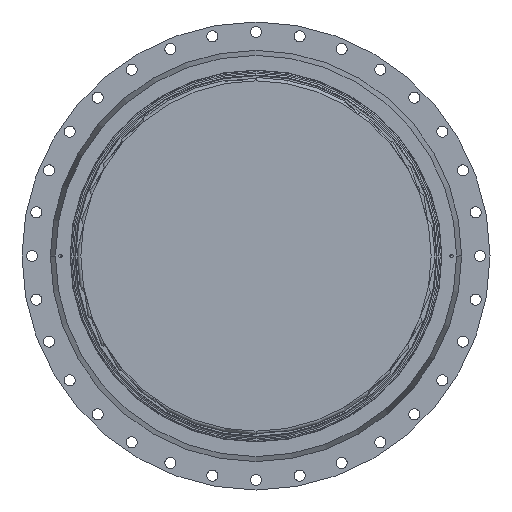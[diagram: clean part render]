
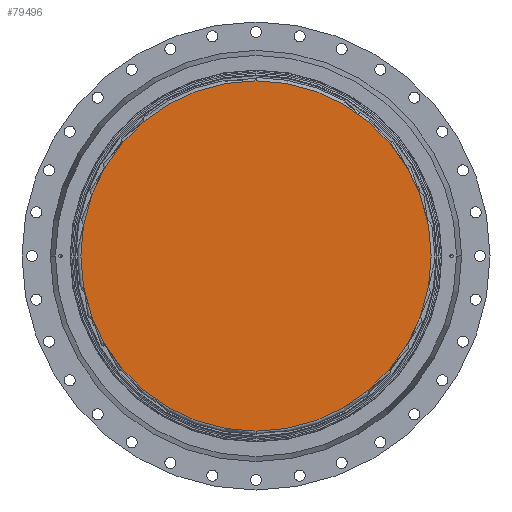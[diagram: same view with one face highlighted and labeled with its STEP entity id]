
A CAD part, front view. The second image highlights one B-rep face of the part: STEP entity #79496.
In plain terms, the highlighted planar face has unit normal (0, -1, 0).
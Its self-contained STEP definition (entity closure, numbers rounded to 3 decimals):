
#189 = PLANE ( 'NONE',  #79276 ) ;
#230 = VERTEX_POINT ( 'NONE', #41927 ) ;
#617 = DIRECTION ( 'NONE',  ( -1., 0., 0. ) ) ;
#5321 = DIRECTION ( 'NONE',  ( 0., -1., 0. ) ) ;
#8349 = FACE_OUTER_BOUND ( 'NONE', #44314, .T. ) ;
#20661 = CIRCLE ( 'NONE', #66788, 524. ) ;
#39340 = CIRCLE ( 'NONE', #54994, 524. ) ;
#41776 = CARTESIAN_POINT ( 'NONE',  ( 0., -1390.1, 524. ) ) ;
#41927 = CARTESIAN_POINT ( 'NONE',  ( 0., -1390.1, -524. ) ) ;
#44314 = EDGE_LOOP ( 'NONE', ( #46524, #65899 ) ) ;
#46524 = ORIENTED_EDGE ( 'NONE', *, *, #49722, .T. ) ;
#49722 = EDGE_CURVE ( 'NONE', #68044, #230, #20661, .T. ) ;
#54994 = AXIS2_PLACEMENT_3D ( 'NONE', #117238, #56966, #127306 ) ;
#56966 = DIRECTION ( 'NONE',  ( 0., -1., 0. ) ) ;
#60926 = DIRECTION ( 'NONE',  ( 0., 1., 0. ) ) ;
#65641 = CARTESIAN_POINT ( 'NONE',  ( 0., -1390.1, 0. ) ) ;
#65899 = ORIENTED_EDGE ( 'NONE', *, *, #80708, .T. ) ;
#66788 = AXIS2_PLACEMENT_3D ( 'NONE', #65641, #5321, #75743 ) ;
#68044 = VERTEX_POINT ( 'NONE', #41776 ) ;
#75743 = DIRECTION ( 'NONE',  ( 0., 0., 1. ) ) ;
#79276 = AXIS2_PLACEMENT_3D ( 'NONE', #121190, #60926, #617 ) ;
#79496 = ADVANCED_FACE ( 'NONE', ( #8349 ), #189, .F. ) ;
#80708 = EDGE_CURVE ( 'NONE', #230, #68044, #39340, .T. ) ;
#117238 = CARTESIAN_POINT ( 'NONE',  ( 0., -1390.1, 0. ) ) ;
#121190 = CARTESIAN_POINT ( 'NONE',  ( 524., -1390.1, 500000. ) ) ;
#127306 = DIRECTION ( 'NONE',  ( 0., 0., 1. ) ) ;
